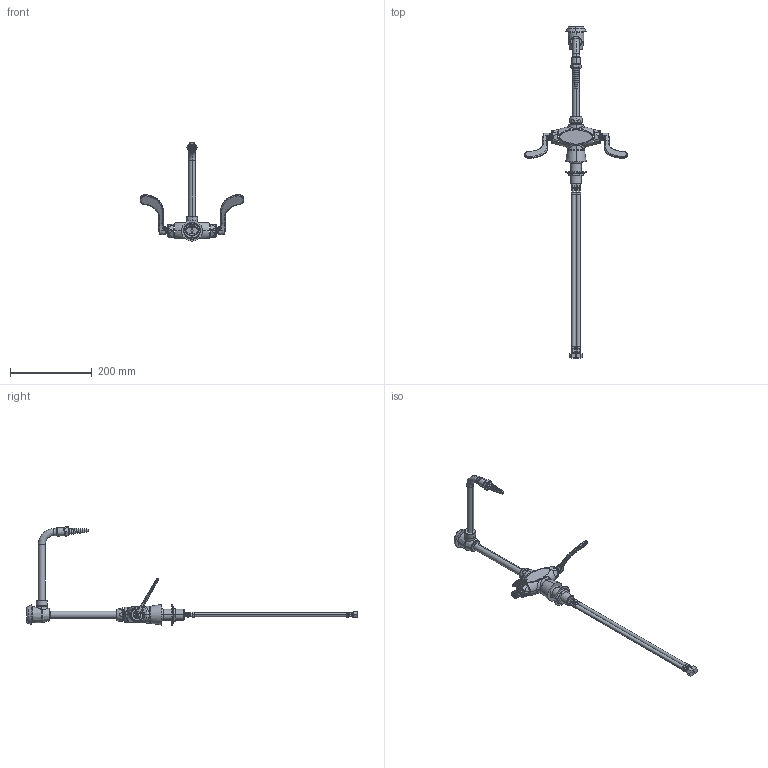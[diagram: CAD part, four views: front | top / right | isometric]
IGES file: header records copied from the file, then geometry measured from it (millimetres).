
Start section:  PTC IGES file: 930-gn8bvbe7-317xk_REV103013.igs
Global section: file name: 930-gn8bvbe7-317xk_REV103013.igs; native system: Creo Parametric by Parametric Technology Corporation; preprocessor: 2013050; author: SDmitruk; organization: Unknown; date: 20131030.130523; units: inch
Bounding box: 254 x 810.88 x 240.09 mm (x, y, z)
Surface area: 133281.9 mm2 (no closed solid volume)
Topology: 0 solids, 0 shells, 472 faces, 3463 edges, 4613 vertices
Faces by surface type: revolution 251, bspline 221
